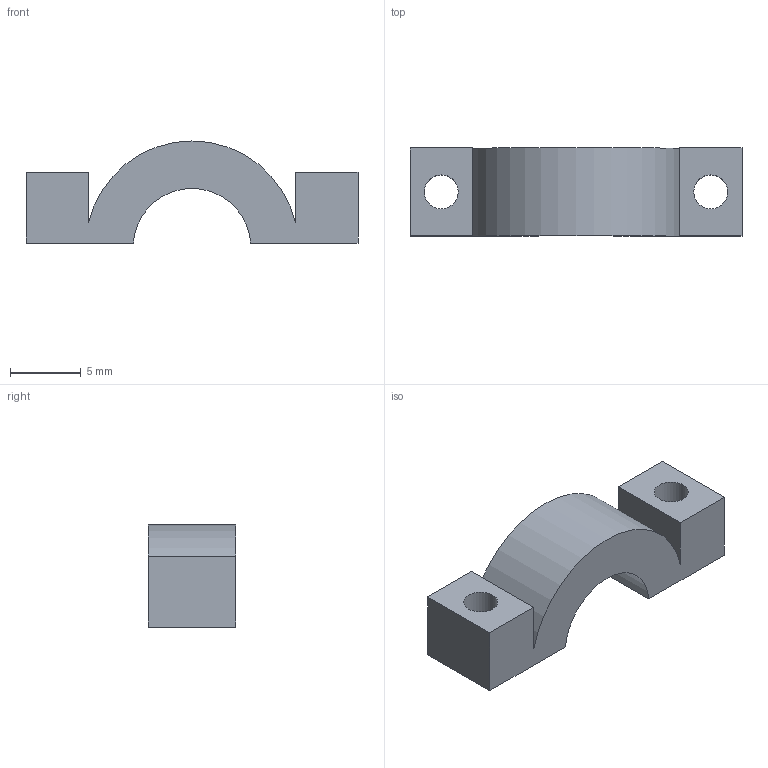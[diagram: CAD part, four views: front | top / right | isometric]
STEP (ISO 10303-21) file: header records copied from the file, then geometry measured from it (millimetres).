
FILE_DESCRIPTION(('Open CASCADE Model'),'2;1');
FILE_NAME('Open CASCADE Shape Model','2026-10-20T15:49:48',('Author'),( 'Open CASCADE'),'Open CASCADE STEP processor 7.8','Open CASCADE 7.8' ,'Unknown');
FILE_SCHEMA(('AUTOMOTIVE_DESIGN { 1 0 10303 214 1 1 1 1 }'));
Length unit declared in the file: millimetre
Products named in the file (1): Open CASCADE STEP translator 7.8 18
Bounding box: 23.4 x 6.2 x 7.2 mm (x, y, z)
Volume: 593.1 mm3; surface area: 719.6 mm2
Topology: 1 solids, 1 shells, 14 faces, 36 edges, 24 vertices
Faces by surface type: plane 10, cylinder 4
Full cylindrical faces by diameter (mm): 2.4 x2
Entity records: 926 total; most frequent: CARTESIAN_POINT 189, DIRECTION 134, LINE 86, VECTOR 86, ORIENTED_EDGE 72, PCURVE 72, DEFINITIONAL_REPRESENTATION 72, EDGE_CURVE 36
